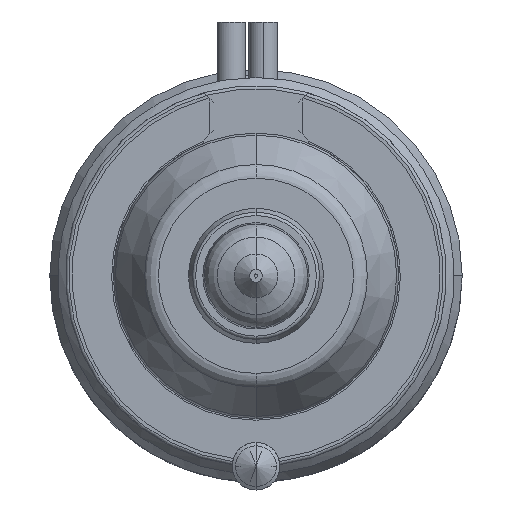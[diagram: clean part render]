
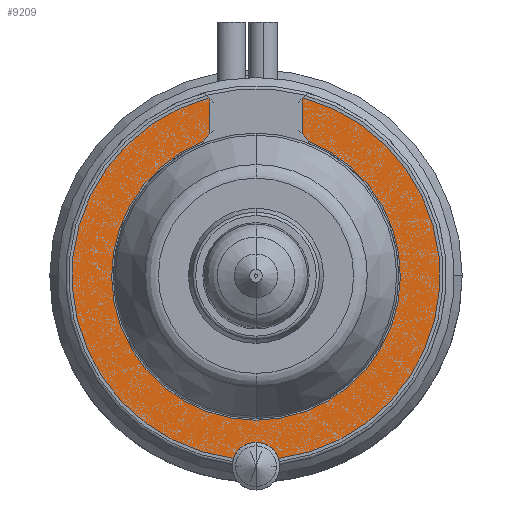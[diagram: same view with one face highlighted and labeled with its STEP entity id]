
A CAD part, front view. The second image highlights one B-rep face of the part: STEP entity #9209.
In plain terms, the highlighted planar face has unit normal (0, -1, 0).
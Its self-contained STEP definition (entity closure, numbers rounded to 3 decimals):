
#596=DIRECTION('',(0.707,0.,-0.707));
#597=VECTOR('',#596,0.092);
#598=CARTESIAN_POINT('',(-2.965,-22.,11.215));
#599=LINE('',#598,#597);
#1555=CARTESIAN_POINT('',(0.,-22.,6.2));
#1556=DIRECTION('',(0.,1.,0.));
#1557=DIRECTION('',(0.725,0.,0.689));
#1558=AXIS2_PLACEMENT_3D('',#1555,#1556,#1557);
#1570=CARTESIAN_POINT('',(0.,-22.,-12.));
#1571=DIRECTION('',(0.,1.,0.));
#1572=DIRECTION('',(-0.946,0.,0.325));
#1573=AXIS2_PLACEMENT_3D('',#1570,#1571,#1572);
#1589=CARTESIAN_POINT('',(0.,-22.,0.));
#1590=DIRECTION('',(0.,1.,0.));
#1591=DIRECTION('',(-0.122,0.,-0.992));
#1592=AXIS2_PLACEMENT_3D('',#1589,#1590,#1591);
#1601=CARTESIAN_POINT('',(0.,-22.,0.));
#1602=DIRECTION('',(0.,1.,0.));
#1603=DIRECTION('',(0.256,0.,0.967));
#1604=AXIS2_PLACEMENT_3D('',#1601,#1602,#1603);
#1617=DIRECTION('',(-0.707,0.,-0.707));
#1618=VECTOR('',#1617,0.092);
#1619=CARTESIAN_POINT('',(2.965,-22.,11.215));
#1620=LINE('',#1619,#1618);
#1625=DIRECTION('',(0.,0.,-1.));
#1626=VECTOR('',#1625,2.195);
#1627=CARTESIAN_POINT('',(2.9,-22.,11.15));
#1628=LINE('',#1627,#1626);
#1656=DIRECTION('',(0.,0.,1.));
#1657=VECTOR('',#1656,2.195);
#1658=CARTESIAN_POINT('',(-2.9,-22.,8.955));
#1659=LINE('',#1658,#1657);
#1691=CARTESIAN_POINT('',(0.,-22.,6.2));
#1692=DIRECTION('',(0.,1.,0.));
#1693=DIRECTION('',(-0.82,0.,0.572));
#1694=AXIS2_PLACEMENT_3D('',#1691,#1692,#1693);
#1706=CARTESIAN_POINT('',(0.,-22.,0.));
#1707=DIRECTION('',(0.,-1.,0.));
#1708=DIRECTION('',(-0.361,0.,0.933));
#1709=AXIS2_PLACEMENT_3D('',#1706,#1707,#1708);
#7395=CARTESIAN_POINT('',(2.965,-22.,11.215));
#7396=CARTESIAN_POINT('',(2.9,-22.,11.15));
#7397=VERTEX_POINT('',#7395);
#7398=VERTEX_POINT('',#7396);
#7403=CARTESIAN_POINT('',(-2.965,-22.,11.215));
#7404=CARTESIAN_POINT('',(-2.9,-22.,11.15));
#7405=VERTEX_POINT('',#7403);
#7406=VERTEX_POINT('',#7404);
#7441=CARTESIAN_POINT('',(2.9,-22.,8.955));
#7442=CARTESIAN_POINT('',(3.281,-22.,8.488));
#7443=VERTEX_POINT('',#7441);
#7444=VERTEX_POINT('',#7442);
#7445=CARTESIAN_POINT('',(-3.281,-22.,8.488));
#7446=CARTESIAN_POINT('',(-2.9,-22.,8.955));
#7447=VERTEX_POINT('',#7445);
#7448=VERTEX_POINT('',#7446);
#7590=CARTESIAN_POINT('',(-1.419,-22.,-11.513));
#7591=CARTESIAN_POINT('',(1.419,-22.,-11.513));
#7592=VERTEX_POINT('',#7590);
#7593=VERTEX_POINT('',#7591);
#9185=CARTESIAN_POINT('',(0.,-22.,0.));
#9186=DIRECTION('',(0.,-1.,0.));
#9187=DIRECTION('',(-1.,0.,0.));
#9188=AXIS2_PLACEMENT_3D('',#9185,#9186,#9187);
#9189=PLANE('',#9188);
#9190=ORIENTED_EDGE('',*,*,#8672,.F.);
#9192=ORIENTED_EDGE('',*,*,#9191,.T.);
#9193=ORIENTED_EDGE('',*,*,#8792,.T.);
#9195=ORIENTED_EDGE('',*,*,#9194,.F.);
#9197=ORIENTED_EDGE('',*,*,#9196,.F.);
#9199=ORIENTED_EDGE('',*,*,#9198,.T.);
#9200=ORIENTED_EDGE('',*,*,#9164,.F.);
#9202=ORIENTED_EDGE('',*,*,#9201,.F.);
#9204=ORIENTED_EDGE('',*,*,#9203,.F.);
#9206=ORIENTED_EDGE('',*,*,#9205,.T.);
#9207=EDGE_LOOP('',(#9190,#9192,#9193,#9195,#9197,#9199,#9200,#9202,#9204,
#9206));
#9208=FACE_OUTER_BOUND('',#9207,.F.);
#9209=ADVANCED_FACE('',(#9208),#9189,.T.);
#1559=CIRCLE('',#1558,4.);
#1574=CIRCLE('',#1573,1.5);
#1593=CIRCLE('',#1592,11.6);
#1605=CIRCLE('',#1604,11.6);
#1695=CIRCLE('',#1694,4.);
#1710=CIRCLE('',#1709,9.1);
#8672=EDGE_CURVE('',#7592,#7593,#1574,.T.);
#8792=EDGE_CURVE('',#7405,#7406,#599,.T.);
#9164=EDGE_CURVE('',#7443,#7444,#1559,.T.);
#9191=EDGE_CURVE('',#7592,#7405,#1593,.T.);
#9194=EDGE_CURVE('',#7448,#7406,#1659,.T.);
#9196=EDGE_CURVE('',#7447,#7448,#1695,.T.);
#9198=EDGE_CURVE('',#7447,#7444,#1710,.T.);
#9201=EDGE_CURVE('',#7398,#7443,#1628,.T.);
#9203=EDGE_CURVE('',#7397,#7398,#1620,.T.);
#9205=EDGE_CURVE('',#7397,#7593,#1605,.T.);
